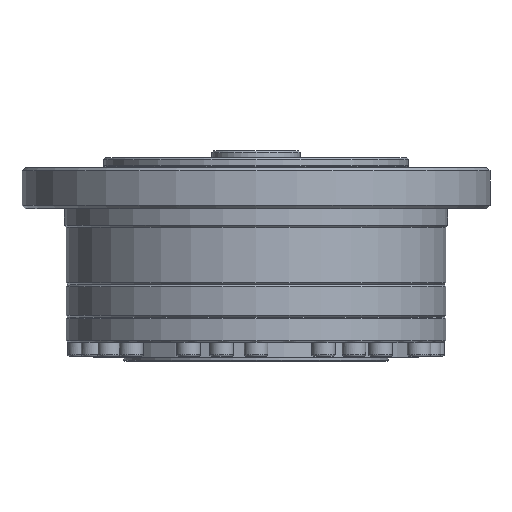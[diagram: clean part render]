
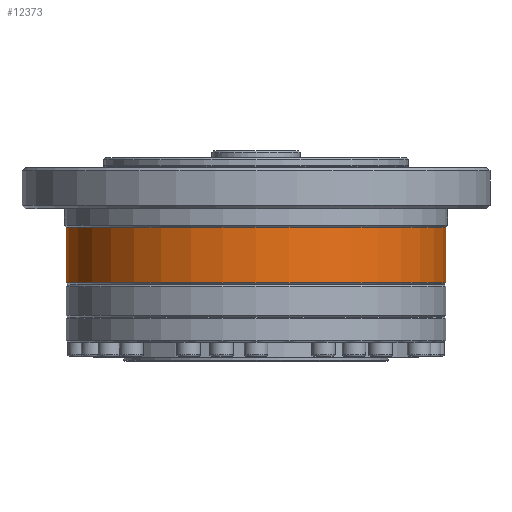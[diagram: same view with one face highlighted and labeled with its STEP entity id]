
A CAD part, front view. The second image highlights one B-rep face of the part: STEP entity #12373.
In plain terms, the highlighted cylindrical face has radius 56 mm (diameter 112 mm), a full revolution.
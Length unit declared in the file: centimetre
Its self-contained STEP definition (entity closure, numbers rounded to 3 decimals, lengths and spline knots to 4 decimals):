
#2050=CYLINDRICAL_SURFACE('',#13881,5.6);
#2345=FACE_BOUND('',#4137,.T.);
#3065=FACE_OUTER_BOUND('',#4136,.T.);
#4136=EDGE_LOOP('',(#10311));
#4137=EDGE_LOOP('',(#10312));
#5420=CIRCLE('',#13879,5.6);
#5422=CIRCLE('',#13882,5.6);
#6329=VERTEX_POINT('',#20819);
#6331=VERTEX_POINT('',#20824);
#7781=EDGE_CURVE('',#6329,#6329,#5420,.T.);
#7783=EDGE_CURVE('',#6331,#6331,#5422,.T.);
#10311=ORIENTED_EDGE('',*,*,#7783,.T.);
#10312=ORIENTED_EDGE('',*,*,#7781,.F.);
#12373=ADVANCED_FACE('',(#3065,#2345),#2050,.T.);
#13879=AXIS2_PLACEMENT_3D('',#20820,#16962,#16963);
#13881=AXIS2_PLACEMENT_3D('',#20823,#16966,#16967);
#13882=AXIS2_PLACEMENT_3D('',#20825,#16968,#16969);
#16962=DIRECTION('center_axis',(0.,0.,
-1.));
#16963=DIRECTION('ref_axis',(0.,-1.,0.));
#16966=DIRECTION('center_axis',(0.,0.,
-1.));
#16967=DIRECTION('ref_axis',(0.,1.,0.));
#16968=DIRECTION('center_axis',(0.,0.,
-1.));
#16969=DIRECTION('ref_axis',(1.,0.,0.));
#20819=CARTESIAN_POINT('',(0.,5.6,2.31));
#20820=CARTESIAN_POINT('Origin',(0.,0.,
2.31));
#20823=CARTESIAN_POINT('Origin',(0.,0.,
3.1));
#20824=CARTESIAN_POINT('',(0.,5.6,3.95));
#20825=CARTESIAN_POINT('Origin',(0.,0.,
3.95));
